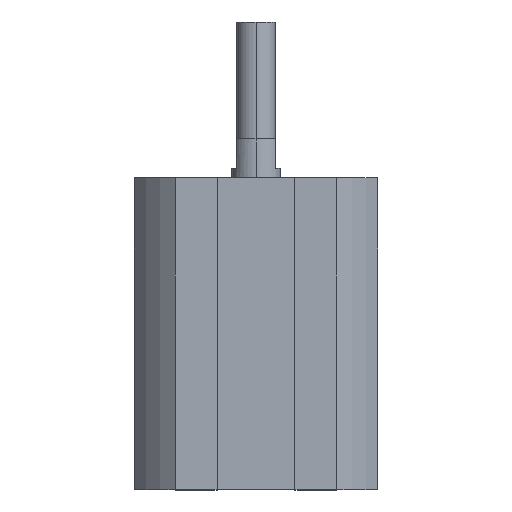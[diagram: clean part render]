
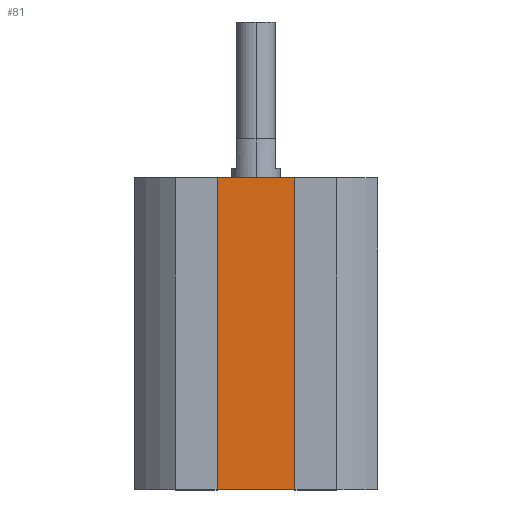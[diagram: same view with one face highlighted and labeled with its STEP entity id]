
A CAD part, top view. The second image highlights one B-rep face of the part: STEP entity #81.
In plain terms, the highlighted planar face has unit normal (0, 0, 1).
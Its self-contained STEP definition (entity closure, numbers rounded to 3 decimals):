
#3 = CARTESIAN_POINT ( 'NONE',  ( -4., 0., 7.8 ) ) ;
#11 = VECTOR ( 'NONE', #2231, 1000. ) ;
#24 = CARTESIAN_POINT ( 'NONE',  ( 4., -32., 7.8 ) ) ;
#81 = ADVANCED_FACE ( 'NONE', ( #85 ), #2079, .T. ) ;
#85 = FACE_OUTER_BOUND ( 'NONE', #409, .T. ) ;
#89 = CARTESIAN_POINT ( 'NONE',  ( 0., -32., 7.8 ) ) ;
#110 = DIRECTION ( 'NONE',  ( 0., 1., 0. ) ) ;
#278 = DIRECTION ( 'NONE',  ( 1., 0., 0. ) ) ;
#397 = EDGE_CURVE ( 'NONE', #748, #1916, #1281, .T. ) ;
#401 = CARTESIAN_POINT ( 'NONE',  ( 4., -32., 7.8 ) ) ;
#409 = EDGE_LOOP ( 'NONE', ( #697, #820, #1685, #2153 ) ) ;
#579 = VECTOR ( 'NONE', #960, 1000. ) ;
#595 = CARTESIAN_POINT ( 'NONE',  ( 0., 0., 7.8 ) ) ;
#602 = VERTEX_POINT ( 'NONE', #795 ) ;
#682 = CARTESIAN_POINT ( 'NONE',  ( -4., -32., 7.8 ) ) ;
#697 = ORIENTED_EDGE ( 'NONE', *, *, #1151, .F. ) ;
#709 = CARTESIAN_POINT ( 'NONE',  ( 0., -32., 7.8 ) ) ;
#748 = VERTEX_POINT ( 'NONE', #682 ) ;
#795 = CARTESIAN_POINT ( 'NONE',  ( 4., 0., 7.8 ) ) ;
#820 = ORIENTED_EDGE ( 'NONE', *, *, #1783, .F. ) ;
#960 = DIRECTION ( 'NONE',  ( 1., 0., 0. ) ) ;
#1009 = DIRECTION ( 'NONE',  ( 0., 0., 1. ) ) ;
#1151 = EDGE_CURVE ( 'NONE', #2072, #602, #2281, .T. ) ;
#1267 = DIRECTION ( 'NONE',  ( 1., 0., 0. ) ) ;
#1281 = LINE ( 'NONE', #709, #1807 ) ;
#1306 = VECTOR ( 'NONE', #110, 1000. ) ;
#1517 = EDGE_CURVE ( 'NONE', #1916, #602, #1967, .T. ) ;
#1685 = ORIENTED_EDGE ( 'NONE', *, *, #397, .T. ) ;
#1729 = AXIS2_PLACEMENT_3D ( 'NONE', #89, #1009, #278 ) ;
#1750 = LINE ( 'NONE', #1955, #1306 ) ;
#1783 = EDGE_CURVE ( 'NONE', #748, #2072, #1750, .T. ) ;
#1807 = VECTOR ( 'NONE', #1267, 1000. ) ;
#1916 = VERTEX_POINT ( 'NONE', #401 ) ;
#1955 = CARTESIAN_POINT ( 'NONE',  ( -4., -32., 7.8 ) ) ;
#1967 = LINE ( 'NONE', #24, #11 ) ;
#2072 = VERTEX_POINT ( 'NONE', #3 ) ;
#2079 = PLANE ( 'NONE',  #1729 ) ;
#2153 = ORIENTED_EDGE ( 'NONE', *, *, #1517, .T. ) ;
#2231 = DIRECTION ( 'NONE',  ( 0., 1., 0. ) ) ;
#2281 = LINE ( 'NONE', #595, #579 ) ;
